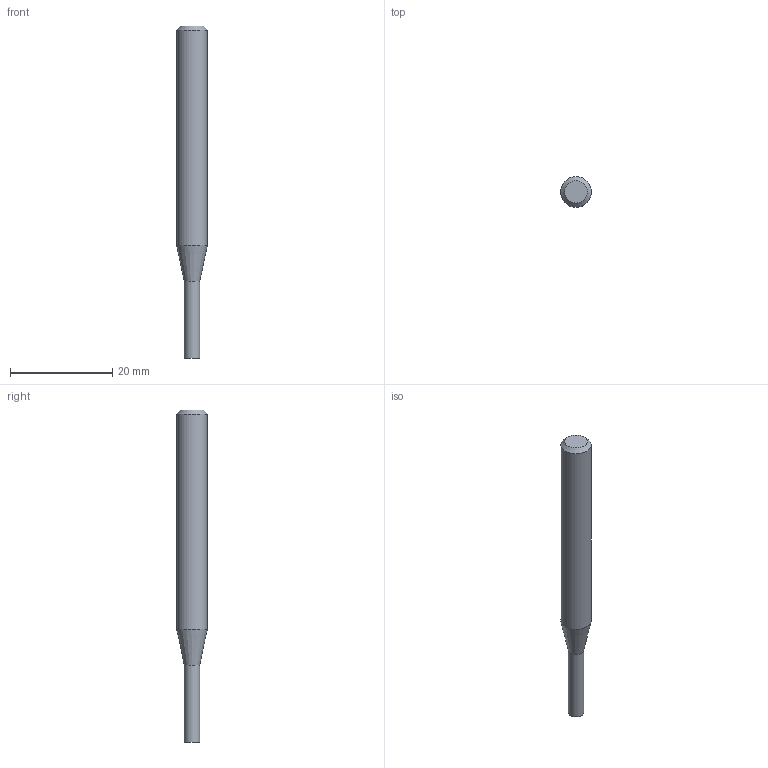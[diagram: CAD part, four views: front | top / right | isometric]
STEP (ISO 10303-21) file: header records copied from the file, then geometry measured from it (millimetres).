
FILE_DESCRIPTION((''),'2;1');
FILE_NAME('C:\Users\nsx150\AppData\Local\Temp\Mastercam 2021\AMKO7YXE3Q\TEMP.step','2024-03-15T17:54:56',(''),(''),'STEP Write','Mastercam 2021 ... CNC Software, Inc.','');
FILE_SCHEMA(('AUTOMOTIVE_DESIGN'));
Length unit declared in the file: millimetre
Products named in the file (1): None
Bounding box: 6 x 6 x 65 mm (x, y, z)
Volume: 1431.1 mm3; surface area: 1092.6 mm2
Topology: 2 solids, 2 shells, 8 faces, 10 edges, 6 vertices
Faces by surface type: plane 4, cylinder 2, cone 2
Full cylindrical faces by diameter (mm): 3 x1, 6 x1
Entity records: 190 total; most frequent: DIRECTION 32, CARTESIAN_POINT 22, AXIS2_PLACEMENT_3D 16, ORIENTED_EDGE 12, EDGE_LOOP 12, STYLED_ITEM 11, ADVANCED_FACE 8, VERTEX_POINT 6
